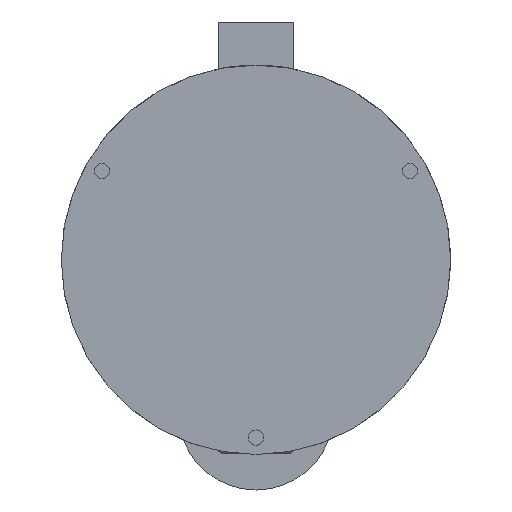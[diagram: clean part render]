
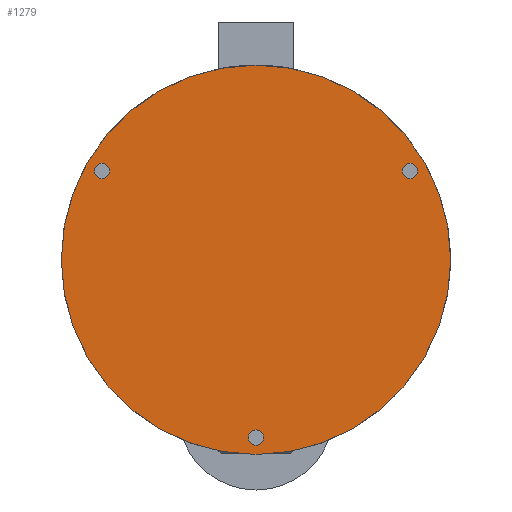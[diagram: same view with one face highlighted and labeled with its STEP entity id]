
A CAD part, front view. The second image highlights one B-rep face of the part: STEP entity #1279.
In plain terms, the highlighted planar face has unit normal (0, -1, 0).
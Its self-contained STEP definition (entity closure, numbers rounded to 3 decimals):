
#15 = EDGE_CURVE ( 'NONE', #6040, #2349, #3073, .T. ) ;
#18 = FACE_BOUND ( 'NONE', #5240, .T. ) ;
#36 = PLANE ( 'NONE',  #2428 ) ;
#38 = EDGE_LOOP ( 'NONE', ( #1826, #5254 ) ) ;
#75 = DIRECTION ( 'NONE',  ( 0., 0., 1. ) ) ;
#194 = CARTESIAN_POINT ( 'NONE',  ( 90.933, 0., 48. ) ) ;
#312 = CIRCLE ( 'NONE', #1170, 115. ) ;
#566 = DIRECTION ( 'NONE',  ( 0., 0., 1. ) ) ;
#573 = DIRECTION ( 'NONE',  ( 0., 1., 0. ) ) ;
#591 = CARTESIAN_POINT ( 'NONE',  ( 0., 0., 0. ) ) ;
#792 = DIRECTION ( 'NONE',  ( 0., 1., 0. ) ) ;
#795 = ORIENTED_EDGE ( 'NONE', *, *, #4646, .T. ) ;
#844 = CIRCLE ( 'NONE', #3623, 4.5 ) ;
#1125 = DIRECTION ( 'NONE',  ( 0., 0., 1. ) ) ;
#1127 = EDGE_CURVE ( 'NONE', #2025, #3869, #844, .T. ) ;
#1170 = AXIS2_PLACEMENT_3D ( 'NONE', #6308, #3223, #75 ) ;
#1279 = ADVANCED_FACE ( 'NONE', ( #4022, #1588, #18, #2647 ), #36, .F. ) ;
#1344 = CARTESIAN_POINT ( 'NONE',  ( 0., 0., -105. ) ) ;
#1367 = VERTEX_POINT ( 'NONE', #6429 ) ;
#1505 = AXIS2_PLACEMENT_3D ( 'NONE', #591, #4229, #1125 ) ;
#1588 = FACE_BOUND ( 'NONE', #5076, .T. ) ;
#1608 = AXIS2_PLACEMENT_3D ( 'NONE', #3916, #792, #4436 ) ;
#1634 = CARTESIAN_POINT ( 'NONE',  ( -90.933, 0., 57. ) ) ;
#1801 = VERTEX_POINT ( 'NONE', #4715 ) ;
#1826 = ORIENTED_EDGE ( 'NONE', *, *, #2802, .F. ) ;
#1868 = DIRECTION ( 'NONE',  ( 0., 0., 1. ) ) ;
#1948 = CARTESIAN_POINT ( 'NONE',  ( 90.933, 0., 52.5 ) ) ;
#1958 = CARTESIAN_POINT ( 'NONE',  ( 0., 0., -105. ) ) ;
#2025 = VERTEX_POINT ( 'NONE', #5886 ) ;
#2049 = AXIS2_PLACEMENT_3D ( 'NONE', #1344, #4972, #1868 ) ;
#2191 = EDGE_LOOP ( 'NONE', ( #3506, #6710 ) ) ;
#2349 = VERTEX_POINT ( 'NONE', #5363 ) ;
#2428 = AXIS2_PLACEMENT_3D ( 'NONE', #2652, #3688, #566 ) ;
#2461 = DIRECTION ( 'NONE',  ( 0., 0., 1. ) ) ;
#2471 = DIRECTION ( 'NONE',  ( 0., 0., 1. ) ) ;
#2503 = AXIS2_PLACEMENT_3D ( 'NONE', #3699, #573, #4210 ) ;
#2627 = CARTESIAN_POINT ( 'NONE',  ( 0., 0., -115. ) ) ;
#2647 = FACE_OUTER_BOUND ( 'NONE', #38, .T. ) ;
#2652 = CARTESIAN_POINT ( 'NONE',  ( 0., 0., 0. ) ) ;
#2672 = CARTESIAN_POINT ( 'NONE',  ( 0., 0., -100.5 ) ) ;
#2802 = EDGE_CURVE ( 'NONE', #6023, #1801, #4724, .T. ) ;
#3066 = DIRECTION ( 'NONE',  ( 0., 1., 0. ) ) ;
#3073 = CIRCLE ( 'NONE', #2049, 4.5 ) ;
#3223 = DIRECTION ( 'NONE',  ( 0., 1., 0. ) ) ;
#3506 = ORIENTED_EDGE ( 'NONE', *, *, #6595, .T. ) ;
#3623 = AXIS2_PLACEMENT_3D ( 'NONE', #6149, #3066, #6683 ) ;
#3657 = EDGE_CURVE ( 'NONE', #1367, #4901, #5359, .T. ) ;
#3688 = DIRECTION ( 'NONE',  ( 0., 1., 0. ) ) ;
#3699 = CARTESIAN_POINT ( 'NONE',  ( -90.933, 0., 52.5 ) ) ;
#3869 = VERTEX_POINT ( 'NONE', #194 ) ;
#3916 = CARTESIAN_POINT ( 'NONE',  ( -90.933, 0., 52.5 ) ) ;
#4022 = FACE_BOUND ( 'NONE', #2191, .T. ) ;
#4210 = DIRECTION ( 'NONE',  ( 0., 0., 1. ) ) ;
#4229 = DIRECTION ( 'NONE',  ( 0., 1., 0. ) ) ;
#4387 = CIRCLE ( 'NONE', #6020, 4.5 ) ;
#4436 = DIRECTION ( 'NONE',  ( 0., 0., 1. ) ) ;
#4646 = EDGE_CURVE ( 'NONE', #2349, #6040, #4387, .T. ) ;
#4715 = CARTESIAN_POINT ( 'NONE',  ( 0., 0., 115. ) ) ;
#4724 = CIRCLE ( 'NONE', #1505, 115. ) ;
#4901 = VERTEX_POINT ( 'NONE', #1634 ) ;
#4972 = DIRECTION ( 'NONE',  ( 0., 1., 0. ) ) ;
#5076 = EDGE_LOOP ( 'NONE', ( #6047, #6724 ) ) ;
#5240 = EDGE_LOOP ( 'NONE', ( #6550, #795 ) ) ;
#5254 = ORIENTED_EDGE ( 'NONE', *, *, #6062, .F. ) ;
#5357 = CIRCLE ( 'NONE', #1608, 4.5 ) ;
#5359 = CIRCLE ( 'NONE', #2503, 4.5 ) ;
#5363 = CARTESIAN_POINT ( 'NONE',  ( 0., 0., -109.5 ) ) ;
#5566 = DIRECTION ( 'NONE',  ( 0., 1., 0. ) ) ;
#5574 = DIRECTION ( 'NONE',  ( 0., 1., 0. ) ) ;
#5676 = AXIS2_PLACEMENT_3D ( 'NONE', #1948, #5566, #2461 ) ;
#5886 = CARTESIAN_POINT ( 'NONE',  ( 90.933, 0., 57. ) ) ;
#5920 = CIRCLE ( 'NONE', #5676, 4.5 ) ;
#6020 = AXIS2_PLACEMENT_3D ( 'NONE', #1958, #5574, #2471 ) ;
#6023 = VERTEX_POINT ( 'NONE', #2627 ) ;
#6040 = VERTEX_POINT ( 'NONE', #2672 ) ;
#6047 = ORIENTED_EDGE ( 'NONE', *, *, #1127, .T. ) ;
#6062 = EDGE_CURVE ( 'NONE', #1801, #6023, #312, .T. ) ;
#6149 = CARTESIAN_POINT ( 'NONE',  ( 90.933, 0., 52.5 ) ) ;
#6243 = EDGE_CURVE ( 'NONE', #3869, #2025, #5920, .T. ) ;
#6308 = CARTESIAN_POINT ( 'NONE',  ( 0., 0., 0. ) ) ;
#6429 = CARTESIAN_POINT ( 'NONE',  ( -90.933, 0., 48. ) ) ;
#6550 = ORIENTED_EDGE ( 'NONE', *, *, #15, .T. ) ;
#6595 = EDGE_CURVE ( 'NONE', #4901, #1367, #5357, .T. ) ;
#6683 = DIRECTION ( 'NONE',  ( 0., 0., 1. ) ) ;
#6710 = ORIENTED_EDGE ( 'NONE', *, *, #3657, .T. ) ;
#6724 = ORIENTED_EDGE ( 'NONE', *, *, #6243, .T. ) ;
